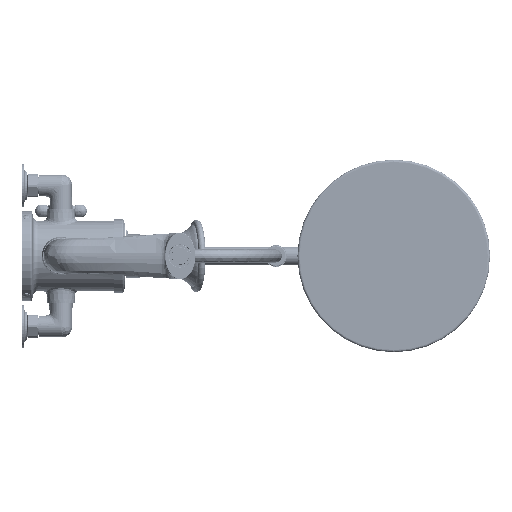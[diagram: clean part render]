
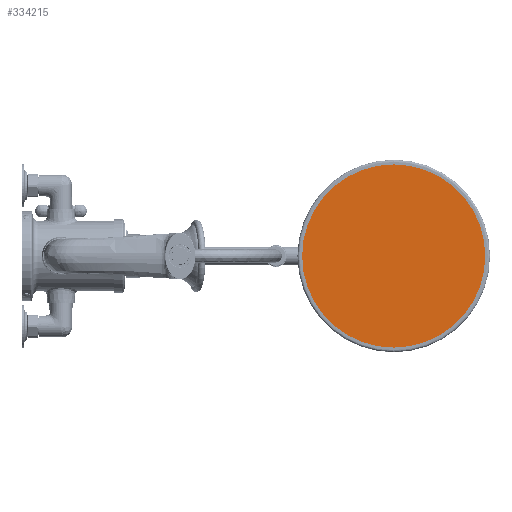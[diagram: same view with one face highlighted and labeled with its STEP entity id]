
A CAD part, left-side view. The second image highlights one B-rep face of the part: STEP entity #334215.
In plain terms, the highlighted planar face has unit normal (-1, 0, 0) as drawn and (0, 0, -1) by its records, which use the part's own axes.
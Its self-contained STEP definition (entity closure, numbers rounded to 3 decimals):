
#334170 = VERTEX_POINT('',#334171);
#334171 = CARTESIAN_POINT('',(-235.936,0.,-4.008));
#334179 = VERTEX_POINT('',#334180);
#334180 = CARTESIAN_POINT('',(-40.534,0.,
    -4.008));
#334186 = EDGE_CURVE('',#334179,#334170,#334187,.T.);
#334187 = CIRCLE('',#334188,97.701);
#334188 = AXIS2_PLACEMENT_3D('',#334189,#334190,#334191);
#334189 = CARTESIAN_POINT('',(-138.235,0.,
    -4.008));
#334190 = DIRECTION('',(0.,0.,-1.));
#334191 = DIRECTION('',(1.,0.,0.));
#334203 = EDGE_CURVE('',#334170,#334179,#334204,.T.);
#334204 = CIRCLE('',#334205,97.701);
#334205 = AXIS2_PLACEMENT_3D('',#334206,#334207,#334208);
#334206 = CARTESIAN_POINT('',(-138.235,0.,
    -4.008));
#334207 = DIRECTION('',(0.,0.,-1.));
#334208 = DIRECTION('',(-1.,0.,0.));
#334215 = ADVANCED_FACE('',(#334216),#334220,.F.);
#334216 = FACE_BOUND('',#334217,.F.);
#334217 = EDGE_LOOP('',(#334218,#334219));
#334218 = ORIENTED_EDGE('',*,*,#334186,.F.);
#334219 = ORIENTED_EDGE('',*,*,#334203,.F.);
#334220 = PLANE('',#334221);
#334221 = AXIS2_PLACEMENT_3D('',#334222,#334223,#334224);
#334222 = CARTESIAN_POINT('',(-138.235,0.,-4.008));
#334223 = DIRECTION('',(0.,0.,1.));
#334224 = DIRECTION('',(0.,1.,0.));
